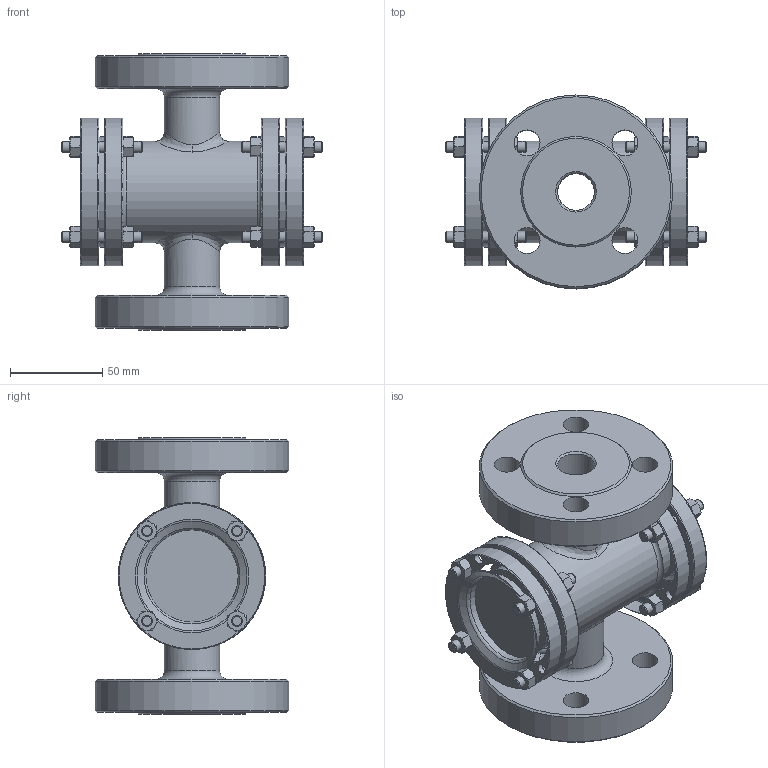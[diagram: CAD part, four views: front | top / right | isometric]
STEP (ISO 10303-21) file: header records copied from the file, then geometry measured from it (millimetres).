
FILE_DESCRIPTION(('STEP AP242'), '1');
FILE_NAME('SG2-34G-F Ñòåêëî ñìîòðîâîå DN.ru Äó20 Ðó40', '', ('UNSPECIFIED'), ('UNSPECIFIED'), 'C3D Converter', 'C3D Toolkit', '');
FILE_SCHEMA(('AP242_MANAGED_MODEL_BASED_3D_ENGINEERING_MIM_LF { 1 0 10303 442 1 1 4 }'));
Length unit declared in the file: millimetre
Products named in the file (1): SG2-34G-F
Bounding box: 141.5 x 105 x 150 mm (x, y, z)
Volume: 492330.3 mm3; surface area: 130103.3 mm2
Topology: 1 solids, 1 shells, 523 faces, 1224 edges, 737 vertices
Faces by surface type: cone 218, plane 203, cylinder 55, bspline 31, torus 16
Full cylindrical faces by diameter (mm): 6 x24, 14 x8, 20 x2, 30 x2, 50 x3, 55 x1, 60 x2, 80 x4, 105 x2
Entity records: 30604 total; most frequent: CARTESIAN_POINT 17926, ORIENTED_EDGE 2254, DIRECTION 2122, EDGE_CURVE 1127, AXIS2_PLACEMENT_3D 968, VERTEX_POINT 731, EDGE_LOOP 682, FACE_BOUND 576
